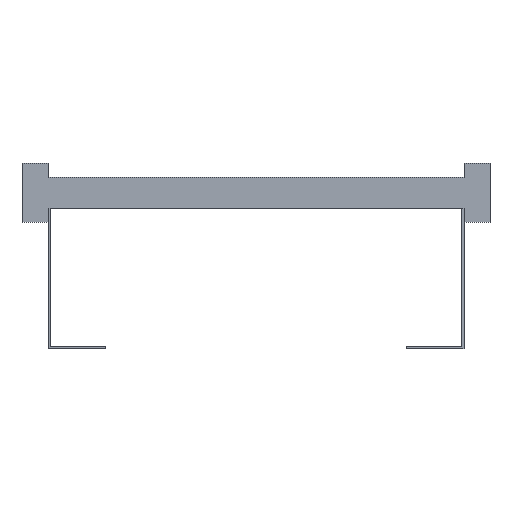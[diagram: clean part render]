
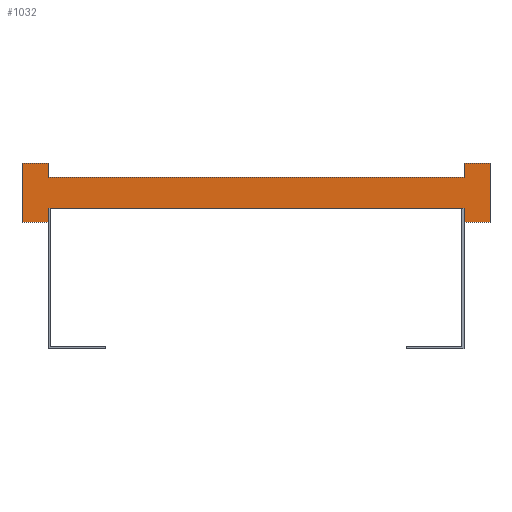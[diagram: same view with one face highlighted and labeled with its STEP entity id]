
A CAD part, front view. The second image highlights one B-rep face of the part: STEP entity #1032.
In plain terms, the highlighted planar face has unit normal (0, -1, 0).
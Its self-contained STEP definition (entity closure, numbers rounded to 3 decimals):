
#113=DIRECTION('',(0.,0.,1.));
#114=VECTOR('',#113,13.5);
#115=CARTESIAN_POINT('',(200.,0.,-28.5));
#116=LINE('',#115,#114);
#117=DIRECTION('',(0.,0.,-1.));
#118=VECTOR('',#117,13.5);
#119=CARTESIAN_POINT('',(-200.,0.,-15.));
#120=LINE('',#119,#118);
#121=DIRECTION('',(-1.,0.,0.));
#122=VECTOR('',#121,25.);
#123=CARTESIAN_POINT('',(-200.,0.,-28.5));
#124=LINE('',#123,#122);
#125=DIRECTION('',(0.,0.,1.));
#126=VECTOR('',#125,57.);
#127=CARTESIAN_POINT('',(-225.,0.,-28.5));
#128=LINE('',#127,#126);
#129=DIRECTION('',(1.,0.,0.));
#130=VECTOR('',#129,25.);
#131=CARTESIAN_POINT('',(-225.,0.,28.5));
#132=LINE('',#131,#130);
#133=DIRECTION('',(0.,0.,-1.));
#134=VECTOR('',#133,13.5);
#135=CARTESIAN_POINT('',(-200.,0.,28.5));
#136=LINE('',#135,#134);
#137=DIRECTION('',(0.,0.,1.));
#138=VECTOR('',#137,13.5);
#139=CARTESIAN_POINT('',(200.,0.,15.));
#140=LINE('',#139,#138);
#141=DIRECTION('',(1.,0.,0.));
#142=VECTOR('',#141,25.);
#143=CARTESIAN_POINT('',(200.,0.,28.5));
#144=LINE('',#143,#142);
#145=DIRECTION('',(0.,0.,-1.));
#146=VECTOR('',#145,57.);
#147=CARTESIAN_POINT('',(225.,0.,28.5));
#148=LINE('',#147,#146);
#149=DIRECTION('',(-1.,0.,0.));
#150=VECTOR('',#149,25.);
#151=CARTESIAN_POINT('',(225.,0.,-28.5));
#152=LINE('',#151,#150);
#769=DIRECTION('',(1.,0.,0.));
#770=VECTOR('',#769,400.);
#771=CARTESIAN_POINT('',(-200.,0.,-15.));
#772=LINE('',#771,#770);
#781=DIRECTION('',(1.,0.,0.));
#782=VECTOR('',#781,400.);
#783=CARTESIAN_POINT('',(-200.,0.,15.));
#784=LINE('',#783,#782);
#785=CARTESIAN_POINT('',(-225.,0.,28.5));
#786=CARTESIAN_POINT('',(-200.,0.,28.5));
#787=VERTEX_POINT('',#785);
#788=VERTEX_POINT('',#786);
#789=CARTESIAN_POINT('',(-200.,0.,-28.5));
#790=CARTESIAN_POINT('',(-225.,0.,-28.5));
#791=VERTEX_POINT('',#789);
#792=VERTEX_POINT('',#790);
#793=CARTESIAN_POINT('',(225.,0.,28.5));
#794=CARTESIAN_POINT('',(225.,0.,-28.5));
#795=VERTEX_POINT('',#793);
#796=VERTEX_POINT('',#794);
#797=CARTESIAN_POINT('',(200.,0.,-28.5));
#798=VERTEX_POINT('',#797);
#799=CARTESIAN_POINT('',(200.,0.,28.5));
#800=VERTEX_POINT('',#799);
#817=CARTESIAN_POINT('',(-200.,0.,-15.));
#819=VERTEX_POINT('',#817);
#821=CARTESIAN_POINT('',(-200.,0.,15.));
#823=VERTEX_POINT('',#821);
#825=CARTESIAN_POINT('',(200.,0.,-15.));
#827=VERTEX_POINT('',#825);
#829=CARTESIAN_POINT('',(200.,0.,15.));
#831=VERTEX_POINT('',#829);
#1001=CARTESIAN_POINT('',(0.,0.,0.));
#1002=DIRECTION('',(0.,1.,0.));
#1003=DIRECTION('',(1.,0.,0.));
#1004=AXIS2_PLACEMENT_3D('',#1001,#1002,#1003);
#1005=PLANE('',#1004);
#1007=ORIENTED_EDGE('',*,*,#1006,.T.);
#1009=ORIENTED_EDGE('',*,*,#1008,.F.);
#1011=ORIENTED_EDGE('',*,*,#1010,.T.);
#1013=ORIENTED_EDGE('',*,*,#1012,.T.);
#1015=ORIENTED_EDGE('',*,*,#1014,.T.);
#1017=ORIENTED_EDGE('',*,*,#1016,.T.);
#1019=ORIENTED_EDGE('',*,*,#1018,.T.);
#1021=ORIENTED_EDGE('',*,*,#1020,.T.);
#1023=ORIENTED_EDGE('',*,*,#1022,.T.);
#1025=ORIENTED_EDGE('',*,*,#1024,.T.);
#1027=ORIENTED_EDGE('',*,*,#1026,.T.);
#1029=ORIENTED_EDGE('',*,*,#1028,.T.);
#1030=EDGE_LOOP('',(#1007,#1009,#1011,#1013,#1015,#1017,#1019,#1021,#1023,#1025,
#1027,#1029));
#1031=FACE_OUTER_BOUND('',#1030,.F.);
#1006=EDGE_CURVE('',#798,#827,#116,.T.);
#1008=EDGE_CURVE('',#819,#827,#772,.T.);
#1010=EDGE_CURVE('',#819,#791,#120,.T.);
#1012=EDGE_CURVE('',#791,#792,#124,.T.);
#1014=EDGE_CURVE('',#792,#787,#128,.T.);
#1016=EDGE_CURVE('',#787,#788,#132,.T.);
#1018=EDGE_CURVE('',#788,#823,#136,.T.);
#1020=EDGE_CURVE('',#823,#831,#784,.T.);
#1022=EDGE_CURVE('',#831,#800,#140,.T.);
#1024=EDGE_CURVE('',#800,#795,#144,.T.);
#1026=EDGE_CURVE('',#795,#796,#148,.T.);
#1028=EDGE_CURVE('',#796,#798,#152,.T.);
#1032=ADVANCED_FACE('',(#1031),#1005,.F.);
